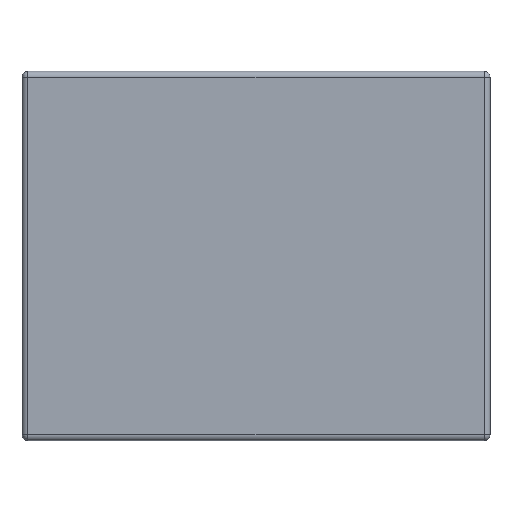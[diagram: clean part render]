
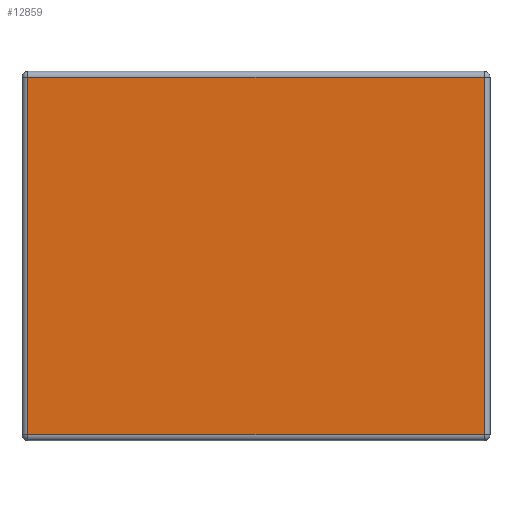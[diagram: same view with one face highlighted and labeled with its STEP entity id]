
A CAD part, front view. The second image highlights one B-rep face of the part: STEP entity #12859.
In plain terms, the highlighted planar face has unit normal (0, -1, 0).
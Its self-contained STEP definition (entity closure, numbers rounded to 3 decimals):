
#243 = AXIS2_PLACEMENT_3D ( 'NONE', #6693, #7801, #17677 ) ;
#993 = VECTOR ( 'NONE', #1444, 1000. ) ;
#1444 = DIRECTION ( 'NONE',  ( -1., 0., 0. ) ) ;
#1979 = DIRECTION ( 'NONE',  ( 1., 0., 0. ) ) ;
#3466 = CARTESIAN_POINT ( 'NONE',  ( -92.6, 0., 0. ) ) ;
#4695 = VERTEX_POINT ( 'NONE', #15885 ) ;
#4788 = EDGE_CURVE ( 'NONE', #4695, #13820, #14323, .T. ) ;
#6693 = CARTESIAN_POINT ( 'NONE',  ( 0., 0., 0. ) ) ;
#6924 = EDGE_CURVE ( 'NONE', #15271, #11236, #16492, .T. ) ;
#7561 = ORIENTED_EDGE ( 'NONE', *, *, #4788, .T. ) ;
#7801 = DIRECTION ( 'NONE',  ( 0., -1., 0. ) ) ;
#8165 = ORIENTED_EDGE ( 'NONE', *, *, #9166, .T. ) ;
#8616 = EDGE_LOOP ( 'NONE', ( #7561, #8165, #13626, #15954 ) ) ;
#9166 = EDGE_CURVE ( 'NONE', #13820, #15271, #16643, .T. ) ;
#9197 = LINE ( 'NONE', #3466, #14835 ) ;
#9339 = PLANE ( 'NONE',  #243 ) ;
#9427 = FACE_OUTER_BOUND ( 'NONE', #8616, .T. ) ;
#10903 = CARTESIAN_POINT ( 'NONE',  ( 92.6, 0., 75. ) ) ;
#11236 = VERTEX_POINT ( 'NONE', #13748 ) ;
#11457 = CARTESIAN_POINT ( 'NONE',  ( 92.6, 0., -72.6 ) ) ;
#12317 = VECTOR ( 'NONE', #1979, 1000. ) ;
#12372 = CARTESIAN_POINT ( 'NONE',  ( -95., 0., 72.6 ) ) ;
#12751 = CARTESIAN_POINT ( 'NONE',  ( 92.6, 0., 72.6 ) ) ;
#12859 = ADVANCED_FACE ( 'NONE', ( #9427 ), #9339, .T. ) ;
#13626 = ORIENTED_EDGE ( 'NONE', *, *, #6924, .T. ) ;
#13748 = CARTESIAN_POINT ( 'NONE',  ( -92.6, 0., 72.6 ) ) ;
#13820 = VERTEX_POINT ( 'NONE', #11457 ) ;
#14323 = LINE ( 'NONE', #15503, #12317 ) ;
#14762 = VECTOR ( 'NONE', #15286, 1000. ) ;
#14835 = VECTOR ( 'NONE', #15803, 1000. ) ;
#15007 = EDGE_CURVE ( 'NONE', #11236, #4695, #9197, .T. ) ;
#15271 = VERTEX_POINT ( 'NONE', #12751 ) ;
#15286 = DIRECTION ( 'NONE',  ( 0., 0., 1. ) ) ;
#15503 = CARTESIAN_POINT ( 'NONE',  ( 0., 0., -72.6 ) ) ;
#15803 = DIRECTION ( 'NONE',  ( 0., 0., -1. ) ) ;
#15885 = CARTESIAN_POINT ( 'NONE',  ( -92.6, 0., -72.6 ) ) ;
#15954 = ORIENTED_EDGE ( 'NONE', *, *, #15007, .T. ) ;
#16492 = LINE ( 'NONE', #12372, #993 ) ;
#16643 = LINE ( 'NONE', #10903, #14762 ) ;
#17677 = DIRECTION ( 'NONE',  ( 0., 0., -1. ) ) ;
